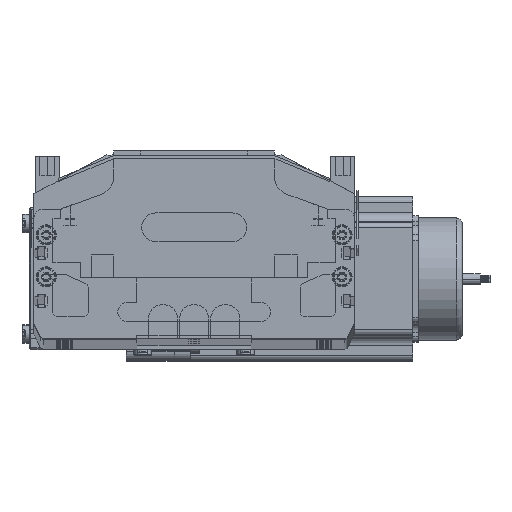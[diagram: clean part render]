
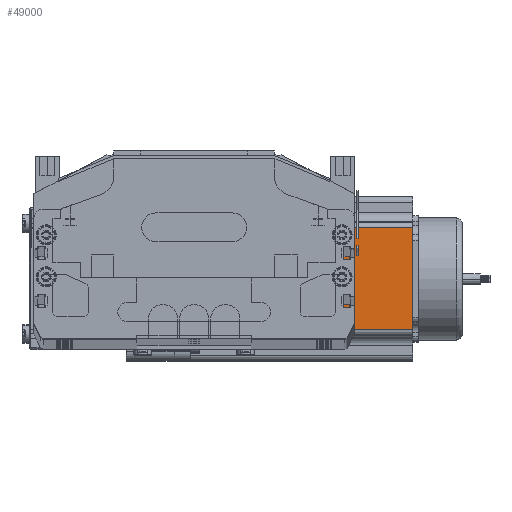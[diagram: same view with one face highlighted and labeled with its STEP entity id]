
A CAD part, top view. The second image highlights one B-rep face of the part: STEP entity #49000.
In plain terms, the highlighted planar face has unit normal (0, 0, 1) as drawn and (0, -1, 0) by its records, which use the part's own axes.
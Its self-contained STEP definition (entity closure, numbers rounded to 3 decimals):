
#15617 = CARTESIAN_POINT ( 'NONE',  ( 16.16, 0., 116.5 ) ) ;
#15785 = DIRECTION ( 'NONE',  ( 1., 0., 0. ) ) ;
#15787 = VECTOR ( 'NONE', #15785, 1000. ) ;
#15789 = CARTESIAN_POINT ( 'NONE',  ( 0., 0., 116.5 ) ) ;
#15819 = LINE ( 'NONE', #15789, #15787 ) ;
#15825 = CARTESIAN_POINT ( 'NONE',  ( 69.74, 0., 116.5 ) ) ;
#17958 = LINE ( 'NONE', #18020, #18019 ) ;
#18008 = DIRECTION ( 'NONE',  ( 0., 0., 1. ) ) ;
#18009 = VECTOR ( 'NONE', #18008, 1000. ) ;
#18013 = CARTESIAN_POINT ( 'NONE',  ( 69.74, 0., 116.5 ) ) ;
#18017 = LINE ( 'NONE', #18013, #18009 ) ;
#18018 = DIRECTION ( 'NONE',  ( 1., 0., 0. ) ) ;
#18019 = VECTOR ( 'NONE', #18018, 1000. ) ;
#18020 = CARTESIAN_POINT ( 'NONE',  ( 0., 0., 0. ) ) ;
#18345 = CARTESIAN_POINT ( 'NONE',  ( 16.16, 0., 0. ) ) ;
#18556 = CARTESIAN_POINT ( 'NONE',  ( 69.74, 0., 0. ) ) ;
#24710 = AXIS2_PLACEMENT_3D ( 'NONE', #24847, #24846, #24844 ) ;
#24719 = FACE_OUTER_BOUND ( 'NONE', #49606, .T. ) ;
#24727 = PLANE ( 'NONE',  #24710 ) ;
#24837 = DIRECTION ( 'NONE',  ( 0., 0., -1. ) ) ;
#24838 = VECTOR ( 'NONE', #24837, 1000. ) ;
#24844 = DIRECTION ( 'NONE',  ( 0., 0., 1. ) ) ;
#24846 = DIRECTION ( 'NONE',  ( 0., 1., 0. ) ) ;
#24847 = CARTESIAN_POINT ( 'NONE',  ( 0., 0., 116.5 ) ) ;
#24849 = CARTESIAN_POINT ( 'NONE',  ( 16.16, 0., 116.5 ) ) ;
#24851 = LINE ( 'NONE', #24849, #24838 ) ;
#41473 = VERTEX_POINT ( 'NONE', #15617 ) ;
#41594 = VERTEX_POINT ( 'NONE', #15825 ) ;
#41641 = EDGE_CURVE ( 'NONE', #41473, #41594, #15819, .T. ) ;
#42340 = EDGE_CURVE ( 'NONE', #43427, #43730, #17958, .T. ) ;
#42347 = EDGE_CURVE ( 'NONE', #43730, #41594, #18017, .T. ) ;
#43327 = ORIENTED_EDGE ( 'NONE', *, *, #42340, .T. ) ;
#43427 = VERTEX_POINT ( 'NONE', #18345 ) ;
#43428 = ORIENTED_EDGE ( 'NONE', *, *, #42347, .T. ) ;
#43730 = VERTEX_POINT ( 'NONE', #18556 ) ;
#48836 = ORIENTED_EDGE ( 'NONE', *, *, #49016, .T. ) ;
#48995 = ORIENTED_EDGE ( 'NONE', *, *, #41641, .F. ) ;
#49000 = ADVANCED_FACE ( 'NONE', ( #24719 ), #24727, .F. ) ;
#49016 = EDGE_CURVE ( 'NONE', #41473, #43427, #24851, .T. ) ;
#49606 = EDGE_LOOP ( 'NONE', ( #43327, #43428, #48995, #48836 ) ) ;
